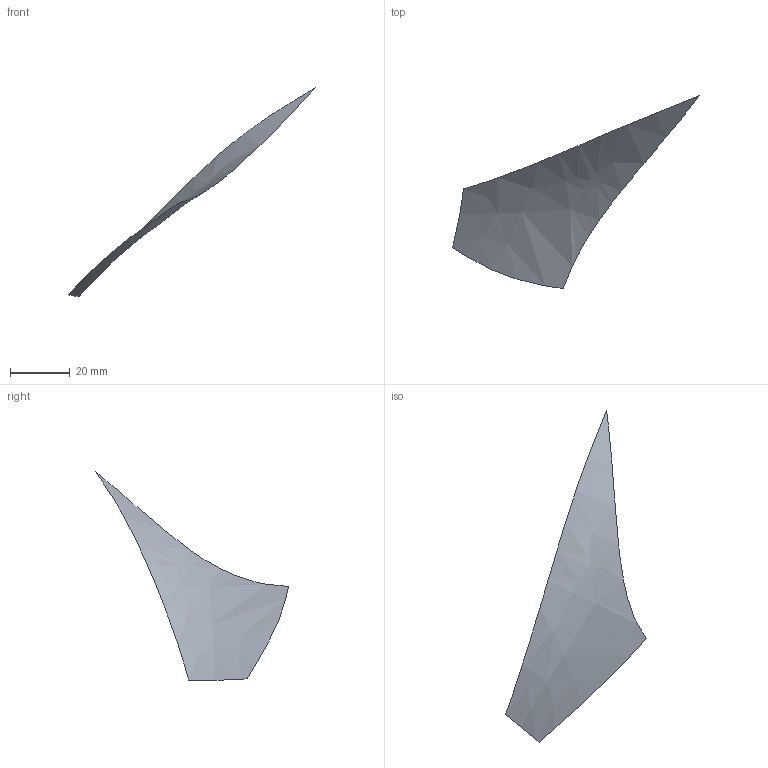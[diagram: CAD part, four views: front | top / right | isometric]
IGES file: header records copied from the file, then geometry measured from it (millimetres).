
Start section: START RECORD GO HERE
Global section: file name: s11.igs; native system: IBM CATIA IGES - CATIA SOLUTIONS V4RELEASE 1.9 REFRESH 01; preprocessor: CATIA SOLUTIONS V4RELEASE 1.9 REFRESH 01; author: cky; date: 990510.133752; units: millimetre
Bounding box: 82.52 x 64.43 x 69.77 mm (x, y, z)
Surface area: 2673.6 mm2 (no closed solid volume)
Topology: 0 solids, 0 shells, 1 faces, 32 edges, 32 vertices
Faces by surface type: bspline 1
